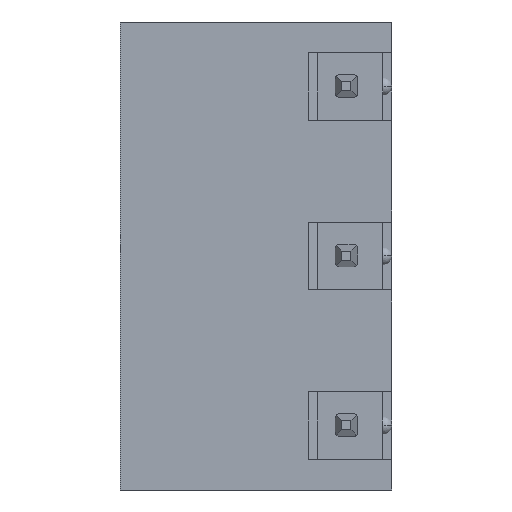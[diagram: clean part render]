
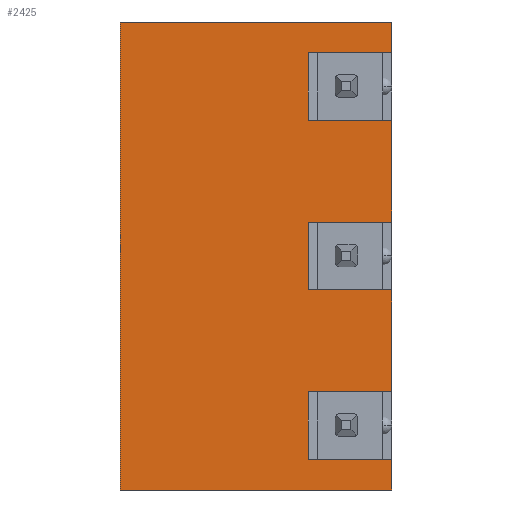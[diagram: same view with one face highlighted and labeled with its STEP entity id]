
A CAD part, left-side view. The second image highlights one B-rep face of the part: STEP entity #2425.
In plain terms, the highlighted planar face has unit normal (-1, 0, 0).
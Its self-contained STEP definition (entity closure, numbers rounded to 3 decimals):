
#1=DIRECTION('',(0.,1.,0.));
#2=VECTOR('',#1,12.);
#3=CARTESIAN_POINT('',(0.,0.,-34.59));
#4=LINE('',#3,#2);
#5=DIRECTION('',(0.,1.,0.));
#6=VECTOR('',#5,3.7);
#7=CARTESIAN_POINT('',(0.,0.,-15.24));
#8=LINE('',#7,#6);
#9=DIRECTION('',(0.,0.,-1.));
#10=VECTOR('',#9,3.);
#11=CARTESIAN_POINT('',(0.,3.7,-15.24));
#12=LINE('',#11,#10);
#13=DIRECTION('',(0.,-1.,0.));
#14=VECTOR('',#13,3.7);
#15=CARTESIAN_POINT('',(0.,3.7,-18.24));
#16=LINE('',#15,#14);
#17=DIRECTION('',(0.,1.,0.));
#18=VECTOR('',#17,3.7);
#19=CARTESIAN_POINT('',(0.,0.,-22.74));
#20=LINE('',#19,#18);
#21=DIRECTION('',(0.,0.,-1.));
#22=VECTOR('',#21,3.);
#23=CARTESIAN_POINT('',(0.,3.7,-22.74));
#24=LINE('',#23,#22);
#25=DIRECTION('',(0.,-1.,0.));
#26=VECTOR('',#25,3.7);
#27=CARTESIAN_POINT('',(0.,3.7,-25.74));
#28=LINE('',#27,#26);
#29=DIRECTION('',(0.,1.,0.));
#30=VECTOR('',#29,3.7);
#31=CARTESIAN_POINT('',(0.,0.,-30.24));
#32=LINE('',#31,#30);
#33=DIRECTION('',(0.,0.,-1.));
#34=VECTOR('',#33,3.);
#35=CARTESIAN_POINT('',(0.,3.7,-30.24));
#36=LINE('',#35,#34);
#37=DIRECTION('',(0.,-1.,0.));
#38=VECTOR('',#37,3.7);
#39=CARTESIAN_POINT('',(0.,3.7,-33.24));
#40=LINE('',#39,#38);
#214=DIRECTION('',(0.,1.,0.));
#215=VECTOR('',#214,12.);
#216=CARTESIAN_POINT('',(0.,0.,-13.89));
#217=LINE('',#216,#215);
#261=DIRECTION('',(0.,0.,-1.));
#262=VECTOR('',#261,20.7);
#263=CARTESIAN_POINT('',(0.,12.,-13.89));
#264=LINE('',#263,#262);
#549=DIRECTION('',(0.,0.,1.));
#550=VECTOR('',#549,1.35);
#551=CARTESIAN_POINT('',(0.,0.,-34.59));
#552=LINE('',#551,#550);
#557=DIRECTION('',(0.,0.,1.));
#558=VECTOR('',#557,4.5);
#559=CARTESIAN_POINT('',(0.,0.,-30.24));
#560=LINE('',#559,#558);
#565=DIRECTION('',(0.,0.,1.));
#566=VECTOR('',#565,4.5);
#567=CARTESIAN_POINT('',(0.,0.,-22.74));
#568=LINE('',#567,#566);
#573=DIRECTION('',(0.,0.,1.));
#574=VECTOR('',#573,1.35);
#575=CARTESIAN_POINT('',(0.,0.,-15.24));
#576=LINE('',#575,#574);
#1900=CARTESIAN_POINT('',(0.,0.,-34.59));
#1901=CARTESIAN_POINT('',(0.,12.,-34.59));
#1902=VERTEX_POINT('',#1900);
#1903=VERTEX_POINT('',#1901);
#1904=CARTESIAN_POINT('',(0.,12.,-13.89));
#1905=VERTEX_POINT('',#1904);
#1906=CARTESIAN_POINT('',(0.,0.,-13.89));
#1907=VERTEX_POINT('',#1906);
#1908=CARTESIAN_POINT('',(0.,0.,-15.24));
#1909=VERTEX_POINT('',#1908);
#1910=CARTESIAN_POINT('',(0.,3.7,-15.24));
#1911=VERTEX_POINT('',#1910);
#1912=CARTESIAN_POINT('',(0.,3.7,-18.24));
#1913=VERTEX_POINT('',#1912);
#1914=CARTESIAN_POINT('',(0.,0.,-18.24));
#1915=VERTEX_POINT('',#1914);
#1916=CARTESIAN_POINT('',(0.,0.,-22.74));
#1917=VERTEX_POINT('',#1916);
#1918=CARTESIAN_POINT('',(0.,3.7,-22.74));
#1919=VERTEX_POINT('',#1918);
#1920=CARTESIAN_POINT('',(0.,3.7,-25.74));
#1921=VERTEX_POINT('',#1920);
#1922=CARTESIAN_POINT('',(0.,0.,-25.74));
#1923=VERTEX_POINT('',#1922);
#1924=CARTESIAN_POINT('',(0.,0.,-30.24));
#1925=VERTEX_POINT('',#1924);
#1926=CARTESIAN_POINT('',(0.,3.7,-30.24));
#1927=VERTEX_POINT('',#1926);
#1928=CARTESIAN_POINT('',(0.,3.7,-33.24));
#1929=VERTEX_POINT('',#1928);
#1930=CARTESIAN_POINT('',(0.,0.,-33.24));
#1931=VERTEX_POINT('',#1930);
#2386=CARTESIAN_POINT('',(0.,12.,-36.56));
#2387=DIRECTION('',(-1.,0.,0.));
#2388=DIRECTION('',(0.,-1.,0.));
#2389=AXIS2_PLACEMENT_3D('',#2386,#2387,#2388);
#2390=PLANE('',#2389);
#2392=ORIENTED_EDGE('',*,*,#2391,.T.);
#2394=ORIENTED_EDGE('',*,*,#2393,.F.);
#2396=ORIENTED_EDGE('',*,*,#2395,.F.);
#2398=ORIENTED_EDGE('',*,*,#2397,.F.);
#2400=ORIENTED_EDGE('',*,*,#2399,.T.);
#2402=ORIENTED_EDGE('',*,*,#2401,.T.);
#2404=ORIENTED_EDGE('',*,*,#2403,.T.);
#2406=ORIENTED_EDGE('',*,*,#2405,.F.);
#2408=ORIENTED_EDGE('',*,*,#2407,.T.);
#2410=ORIENTED_EDGE('',*,*,#2409,.T.);
#2412=ORIENTED_EDGE('',*,*,#2411,.T.);
#2414=ORIENTED_EDGE('',*,*,#2413,.F.);
#2416=ORIENTED_EDGE('',*,*,#2415,.T.);
#2418=ORIENTED_EDGE('',*,*,#2417,.T.);
#2420=ORIENTED_EDGE('',*,*,#2419,.T.);
#2422=ORIENTED_EDGE('',*,*,#2421,.F.);
#2423=EDGE_LOOP('',(#2392,#2394,#2396,#2398,#2400,#2402,#2404,#2406,#2408,#2410,
#2412,#2414,#2416,#2418,#2420,#2422));
#2424=FACE_OUTER_BOUND('',#2423,.F.);
#2425=ADVANCED_FACE('',(#2424),#2390,.T.);
#2391=EDGE_CURVE('',#1902,#1903,#4,.T.);
#2393=EDGE_CURVE('',#1905,#1903,#264,.T.);
#2395=EDGE_CURVE('',#1907,#1905,#217,.T.);
#2397=EDGE_CURVE('',#1909,#1907,#576,.T.);
#2399=EDGE_CURVE('',#1909,#1911,#8,.T.);
#2401=EDGE_CURVE('',#1911,#1913,#12,.T.);
#2403=EDGE_CURVE('',#1913,#1915,#16,.T.);
#2405=EDGE_CURVE('',#1917,#1915,#568,.T.);
#2407=EDGE_CURVE('',#1917,#1919,#20,.T.);
#2409=EDGE_CURVE('',#1919,#1921,#24,.T.);
#2411=EDGE_CURVE('',#1921,#1923,#28,.T.);
#2413=EDGE_CURVE('',#1925,#1923,#560,.T.);
#2415=EDGE_CURVE('',#1925,#1927,#32,.T.);
#2417=EDGE_CURVE('',#1927,#1929,#36,.T.);
#2419=EDGE_CURVE('',#1929,#1931,#40,.T.);
#2421=EDGE_CURVE('',#1902,#1931,#552,.T.);
